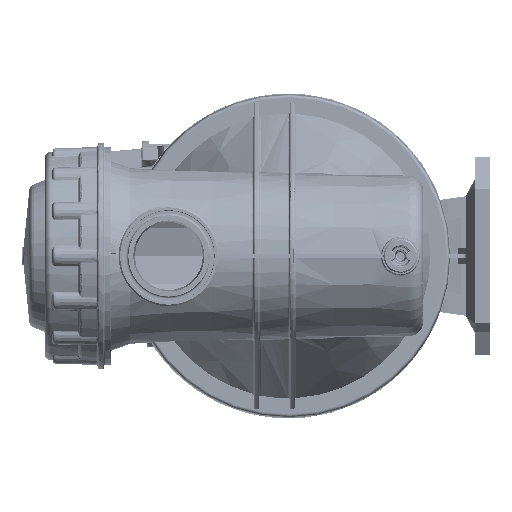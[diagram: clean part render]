
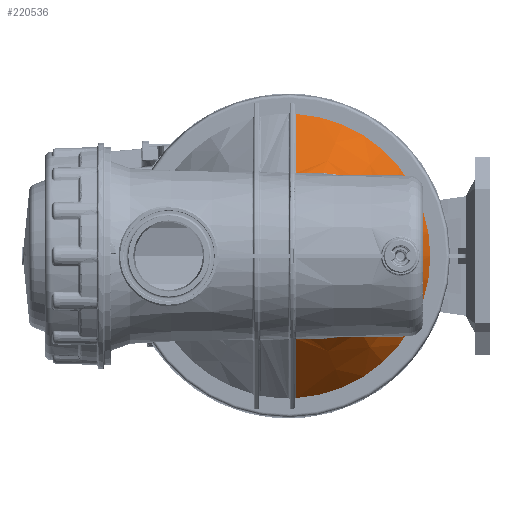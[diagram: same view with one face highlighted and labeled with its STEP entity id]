
A CAD part, left-side view. The second image highlights one B-rep face of the part: STEP entity #220536.
In plain terms, the highlighted conical face has half-angle 27 degrees and reference radius 73.738 mm.
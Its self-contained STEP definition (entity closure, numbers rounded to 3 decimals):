
#211820=CARTESIAN_POINT('',(70.05,0.,0.));
#211821=DIRECTION('',(1.,0.,0.));
#211822=DIRECTION('',(0.,-0.059,0.998));
#211823=AXIS2_PLACEMENT_3D('',#211820,#211821,#211822);
#212611=CARTESIAN_POINT('',(-5.24,-5.413,
-54.369));
#212612=CARTESIAN_POINT('',(-5.014,-6.661,
-54.361));
#212613=CARTESIAN_POINT('',(-4.342,-9.218,
-54.365));
#212614=CARTESIAN_POINT('',(-2.677,-13.278,
-54.396));
#212615=CARTESIAN_POINT('',(-0.391,-17.584,
-54.39));
#212616=CARTESIAN_POINT('',(2.491,-22.201,
-54.269));
#212617=CARTESIAN_POINT('',(5.935,-27.162,
-53.943));
#212618=CARTESIAN_POINT('',(9.894,-32.475,
-53.306));
#212619=CARTESIAN_POINT('',(14.385,-38.216,
-52.232));
#212620=CARTESIAN_POINT('',(19.522,-44.56,
-50.509));
#212621=CARTESIAN_POINT('',(24.976,-51.126,
-47.999));
#212622=CARTESIAN_POINT('',(29.789,-56.83,
-45.112));
#212623=CARTESIAN_POINT('',(33.975,-61.744,
-42.005));
#212624=CARTESIAN_POINT('',(37.601,-65.973,
-38.768));
#212625=CARTESIAN_POINT('',(41.078,-70.009,
-35.068));
#212626=CARTESIAN_POINT('',(44.572,-74.048,
-30.539));
#212627=CARTESIAN_POINT('',(46.863,-76.688,
-26.755));
#212628=CARTESIAN_POINT('',(47.95,-77.938,
-24.636));
#212851=CARTESIAN_POINT('',(-5.24,-5.413,
-54.369));
#212852=CARTESIAN_POINT('',(2.266,-5.419,
-58.212));
#212853=CARTESIAN_POINT('',(17.853,-5.427,
-66.185));
#212854=CARTESIAN_POINT('',(42.92,-5.44,
-78.991));
#212855=CARTESIAN_POINT('',(60.813,-5.445,
-88.126));
#212856=CARTESIAN_POINT('',(70.05,-5.447,
-92.84));
#212871=CARTESIAN_POINT('',(70.05,-5.447,
92.84));
#212872=CARTESIAN_POINT('',(60.809,-5.445,
88.124));
#212873=CARTESIAN_POINT('',(42.91,-5.44,
78.986));
#212874=CARTESIAN_POINT('',(17.844,-5.427,
66.18));
#212875=CARTESIAN_POINT('',(2.262,-5.419,
58.21));
#212876=CARTESIAN_POINT('',(-5.24,-5.413,
54.369));
#212974=CARTESIAN_POINT('',(47.95,-77.938,
24.636));
#212975=CARTESIAN_POINT('',(47.26,-77.145,
25.98));
#212976=CARTESIAN_POINT('',(45.71,-75.36,
28.725));
#212977=CARTESIAN_POINT('',(42.835,-72.042,
32.883));
#212978=CARTESIAN_POINT('',(39.388,-68.05,
36.972));
#212979=CARTESIAN_POINT('',(35.263,-63.251,
40.966));
#212980=CARTESIAN_POINT('',(30.383,-57.533,
44.751));
#212981=CARTESIAN_POINT('',(24.912,-51.053,
48.052));
#212982=CARTESIAN_POINT('',(19.313,-44.305,
50.591));
#212983=CARTESIAN_POINT('',(14.172,-37.949,
52.294));
#212984=CARTESIAN_POINT('',(9.654,-32.162,
53.354));
#212985=CARTESIAN_POINT('',(5.698,-26.834,
53.972));
#212986=CARTESIAN_POINT('',(2.282,-21.884,54.282));
#212987=CARTESIAN_POINT('',(-0.533,-17.335,
54.392));
#212988=CARTESIAN_POINT('',(-2.74,-13.134,
54.394));
#212989=CARTESIAN_POINT('',(-4.345,-9.195,
54.365));
#212990=CARTESIAN_POINT('',(-5.014,-6.659,
54.361));
#212991=CARTESIAN_POINT('',(-5.24,-5.413,
54.369));
#213130=CARTESIAN_POINT('',(52.131,-83.87,
0.));
#213131=CARTESIAN_POINT('',(52.131,-83.87,
0.466));
#213132=CARTESIAN_POINT('',(52.126,-83.86,
1.473));
#213133=CARTESIAN_POINT('',(52.092,-83.794,
3.239));
#213134=CARTESIAN_POINT('',(52.022,-83.662,
5.178));
#213135=CARTESIAN_POINT('',(51.907,-83.451,
7.243));
#213136=CARTESIAN_POINT('',(51.74,-83.153,
9.376));
#213137=CARTESIAN_POINT('',(51.515,-82.767,
11.522));
#213138=CARTESIAN_POINT('',(51.228,-82.298,
13.624));
#213139=CARTESIAN_POINT('',(50.888,-81.771,
15.59));
#213140=CARTESIAN_POINT('',(50.53,-81.242,
17.283));
#213141=CARTESIAN_POINT('',(50.162,-80.72,
18.759));
#213142=CARTESIAN_POINT('',(49.784,-80.205,
20.069));
#213143=CARTESIAN_POINT('',(49.405,-79.707,
21.221));
#213144=CARTESIAN_POINT('',(49.03,-79.23,
22.238));
#213145=CARTESIAN_POINT('',(48.661,-78.776,
23.136));
#213146=CARTESIAN_POINT('',(48.301,-78.346,
23.933));
#213147=CARTESIAN_POINT('',(48.065,-78.071,
24.411));
#213148=CARTESIAN_POINT('',(47.95,-77.938,
24.636));
#213175=CARTESIAN_POINT('',(47.95,-77.938,
-24.636));
#213176=CARTESIAN_POINT('',(48.491,-78.562,
-23.58));
#213177=CARTESIAN_POINT('',(49.484,-79.777,
-21.242));
#213178=CARTESIAN_POINT('',(50.665,-81.41,
-17.012));
#213179=CARTESIAN_POINT('',(51.506,-82.732,
-12.075));
#213180=CARTESIAN_POINT('',(52.009,-83.631,
-6.455));
#213181=CARTESIAN_POINT('',(52.132,-83.87,
-2.222));
#213182=CARTESIAN_POINT('',(52.131,-83.87,
0.));
#215453=VERTEX_POINT('',#212871);
#215454=VERTEX_POINT('',#212876);
#215459=VERTEX_POINT('',#212851);
#215460=VERTEX_POINT('',#212856);
#215463=VERTEX_POINT('',#213175);
#215464=VERTEX_POINT('',#213182);
#215467=VERTEX_POINT('',#213148);
#220515=CARTESIAN_POINT('',(32.246,0.,0.));
#220516=DIRECTION('',(1.,0.,0.));
#220517=DIRECTION('',(0.,-1.,0.));
#220518=AXIS2_PLACEMENT_3D('',#220515,#220516,#220517);
#220519=CONICAL_SURFACE('',#220518,73.738,27.);
#220521=ORIENTED_EDGE('',*,*,#220520,.F.);
#220523=ORIENTED_EDGE('',*,*,#220522,.T.);
#220525=ORIENTED_EDGE('',*,*,#220524,.F.);
#220527=ORIENTED_EDGE('',*,*,#220526,.T.);
#220529=ORIENTED_EDGE('',*,*,#220528,.T.);
#220531=ORIENTED_EDGE('',*,*,#220530,.T.);
#220533=ORIENTED_EDGE('',*,*,#220532,.T.);
#220534=EDGE_LOOP('',(#220521,#220523,#220525,#220527,#220529,#220531,#220533));
#220535=FACE_OUTER_BOUND('',#220534,.F.);
#220536=ADVANCED_FACE('',(#220535),#220519,.T.);
#211824=CIRCLE('',#211823,93.);
#212629=B_SPLINE_CURVE_WITH_KNOTS('',3,(#212611,#212612,#212613,#212614,#212615,
#212616,#212617,#212618,#212619,#212620,#212621,#212622,#212623,#212624,#212625,
#212626,#212627,#212628),.UNSPECIFIED.,.F.,.F.,(4,1,1,1,1,1,1,1,1,1,1,1,1,1,1,
4),(0.,0.067,0.133,0.2,0.267,
0.333,0.4,0.467,0.533,0.6,
0.667,0.733,0.8,0.867,0.933,
1.),.UNSPECIFIED.);
#212857=B_SPLINE_CURVE_WITH_KNOTS('',3,(#212851,#212852,#212853,#212854,#212855,
#212856),.UNSPECIFIED.,.F.,.F.,(4,1,1,4),(0.,0.333,
0.667,1.),.UNSPECIFIED.);
#212877=B_SPLINE_CURVE_WITH_KNOTS('',3,(#212871,#212872,#212873,#212874,#212875,
#212876),.UNSPECIFIED.,.F.,.F.,(4,1,1,4),(0.,0.333,
0.667,1.),.UNSPECIFIED.);
#212992=B_SPLINE_CURVE_WITH_KNOTS('',3,(#212974,#212975,#212976,#212977,#212978,
#212979,#212980,#212981,#212982,#212983,#212984,#212985,#212986,#212987,#212988,
#212989,#212990,#212991),.UNSPECIFIED.,.F.,.F.,(4,1,1,1,1,1,1,1,1,1,1,1,1,1,1,
4),(0.,0.067,0.133,0.2,0.267,
0.333,0.4,0.467,0.533,0.6,
0.667,0.733,0.8,0.867,0.933,
1.),.UNSPECIFIED.);
#213149=B_SPLINE_CURVE_WITH_KNOTS('',3,(#213130,#213131,#213132,#213133,#213134,
#213135,#213136,#213137,#213138,#213139,#213140,#213141,#213142,#213143,#213144,
#213145,#213146,#213147,#213148),.UNSPECIFIED.,.F.,.F.,(4,1,1,1,1,1,1,1,1,1,1,1,
1,1,1,1,4),(0.,0.063,0.125,0.188,0.25,0.313,0.375,0.438,
0.5,0.563,0.625,0.688,0.75,0.813,0.875,0.938,1.),
.UNSPECIFIED.);
#213183=B_SPLINE_CURVE_WITH_KNOTS('',3,(#213175,#213176,#213177,#213178,#213179,
#213180,#213181,#213182),.UNSPECIFIED.,.F.,.F.,(4,1,1,1,1,4),(0.,0.2,0.4,
0.6,0.8,1.),.UNSPECIFIED.);
#220520=EDGE_CURVE('',#215453,#215454,#212877,.T.);
#220522=EDGE_CURVE('',#215453,#215460,#211824,.T.);
#220524=EDGE_CURVE('',#215459,#215460,#212857,.T.);
#220526=EDGE_CURVE('',#215459,#215463,#212629,.T.);
#220528=EDGE_CURVE('',#215463,#215464,#213183,.T.);
#220530=EDGE_CURVE('',#215464,#215467,#213149,.T.);
#220532=EDGE_CURVE('',#215467,#215454,#212992,.T.);
